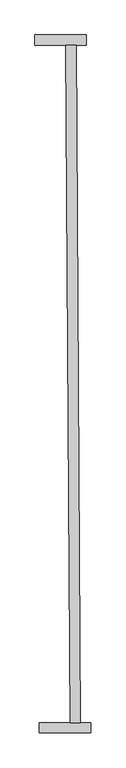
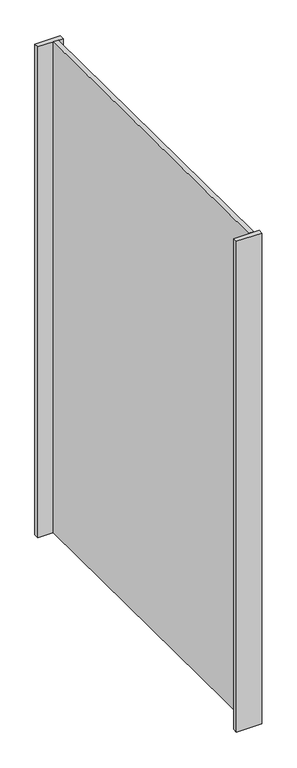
"""IFC4 building model written with IfcOpenShell, lengths in millimetres: proxy geometry, CAIXA JARDIM VERTICAL 4 : CAIXA JARDIM VERTICAL 1."""

import ifcopenshell
import ifcopenshell.guid

model = None  # the IFC model being written
_history = None  # IfcOwnerHistory: only IFC2X3 demands one
_inside = {}  # id of a spatial element -> (the spatial element, [elements in it])
_under = {}  # id of a project, library or spatial element -> (it, [spatial elements below it])
_declared = {}  # id of a project -> (the project, [libraries it declares])
_typed = {}  # id of a type object -> (the type object, [elements of that type])
_made_of = {}  # id of a material, layer set ... -> (it, [elements and type objects made of it])


def new_model(schema):
    """Start an empty IFC model of exactly this schema.

    Asked for "IFC4X3", IfcOpenShell would pick the latest addendum, in which some entities
    have other attributes; the version numbers below select the first issue.
    IFC2X3 requires an IfcOwnerHistory on every rooted entity: one is made here for all.
    """
    global model, _history
    if schema == "IFC4X3":
        model = ifcopenshell.file(schema_version=(4, 3, 0, 0))
    else:
        model = ifcopenshell.file(schema=schema)
    _inside.clear()
    _under.clear()
    _declared.clear()
    _typed.clear()
    _made_of.clear()
    _history = None
    if model.schema == "IFC2X3":
        org = make("IfcOrganization", Name="unknown")
        user = make(
            "IfcPersonAndOrganization",
            ThePerson=make("IfcPerson", FamilyName="unknown"),
            TheOrganization=org,
        )
        app = make(
            "IfcApplication",
            ApplicationDeveloper=org,
            Version="unknown",
            ApplicationFullName="unknown",
            ApplicationIdentifier="unknown",
        )
        _history = make(
            "IfcOwnerHistory",
            OwningUser=user,
            OwningApplication=app,
            ChangeAction="ADDED",
            CreationDate=0,
        )
    return model


def make(cls, **values):
    """One entity of the class cls with the attributes given. An attribute that is None is left unset."""
    return model.create_entity(
        cls, **{name: value for name, value in values.items() if value is not None}
    )


def rooted(cls, **values):
    """An entity with a GlobalId (a new one), such as an element, a storey or a relation."""
    return make(cls, GlobalId=ifcopenshell.guid.new(), OwnerHistory=_history, **values)


def si_unit(unit_type, name, prefix=None):
    """IfcSIUnit, for example si_unit("LENGTHUNIT", "METRE", prefix="MILLI")."""
    return make("IfcSIUnit", UnitType=unit_type, Prefix=prefix, Name=name)


def assignment(units):
    """IfcUnitAssignment: the units of a project."""
    return None if units is None else make("IfcUnitAssignment", Units=units)


def point(xyz):
    """IfcCartesianPoint."""
    return None if xyz is None else make("IfcCartesianPoint", Coordinates=xyz)


def direction(xyz):
    """IfcDirection."""
    return None if xyz is None else make("IfcDirection", DirectionRatios=xyz)


def frame(location, z_axis=None, x_axis=None):
    """IfcAxis2Placement3D, a coordinate frame: its origin and axes. An axis left out is left unset."""
    return make(
        "IfcAxis2Placement3D",
        Location=point(location),
        Axis=direction(z_axis),
        RefDirection=direction(x_axis),
    )


def origin():
    """The frame at (0, 0, 0) with its axes left unset."""
    return frame((0.0, 0.0, 0.0))


def origin_with_axes():
    """The frame at (0, 0, 0) with the z axis (0, 0, 1) and the x axis (1, 0, 0) written out."""
    return frame((0.0, 0.0, 0.0), z_axis=(0.0, 0.0, 1.0), x_axis=(1.0, 0.0, 0.0))


def place(relative_to, where):
    """IfcLocalPlacement: puts the frame where relative to a parent placement (None: the world)."""
    return make(
        "IfcLocalPlacement", PlacementRelTo=relative_to, RelativePlacement=where
    )


def context(
    kind, dimensions, precision=None, world=None, true_north=None, identifier=None
):
    """IfcGeometricRepresentationContext, for example the 3D "Model" context."""
    return make(
        "IfcGeometricRepresentationContext",
        ContextIdentifier=identifier,
        ContextType=kind,
        CoordinateSpaceDimension=dimensions,
        Precision=precision,
        WorldCoordinateSystem=world,
        TrueNorth=true_north,
    )


def project(units=None, contexts=None):
    """IfcProject with its units and contexts."""
    return rooted(
        "IfcProject",
        Name="project",
        RepresentationContexts=contexts,
        UnitsInContext=assignment(units),
    )


def spatial(cls, under=None, at=None, **own):
    """A site, building, storey or space (cls), placed at a placement, below another one or the project."""
    s = rooted(cls, ObjectPlacement=at, **own)
    if under is not None:
        _under.setdefault(under.id(), (under, []))[1].append(s)
    return s


def polyline(points):
    """IfcPolyline through the points."""
    return make("IfcPolyline", Points=[point(p) for p in points])


def outline(outer, holes=None, kind="AREA"):
    """IfcArbitraryClosedProfileDef: a profile drawn as a closed curve; with holes, ...WithVoids."""
    if holes is None:
        return make("IfcArbitraryClosedProfileDef", ProfileType=kind, OuterCurve=outer)
    return make(
        "IfcArbitraryProfileDefWithVoids",
        ProfileType=kind,
        OuterCurve=outer,
        InnerCurves=holes,
    )


def extrude(swept, where, along, depth):
    """IfcExtrudedAreaSolid: the profile swept, set in the frame where, extruded along a direction by depth."""
    return make(
        "IfcExtrudedAreaSolid",
        SweptArea=swept,
        Position=where,
        ExtrudedDirection=direction(along),
        Depth=depth,
    )


def shape(context_of_items, identifier, shape_type, items):
    """IfcShapeRepresentation: the items that make up one representation, for example the "Body"."""
    return make(
        "IfcShapeRepresentation",
        ContextOfItems=context_of_items,
        RepresentationIdentifier=identifier,
        RepresentationType=shape_type,
        Items=items,
    )


def source(mapping_origin, context_of_items, identifier, shape_type, items):
    """IfcRepresentationMap: a shape defined once, which mapped items show again and again."""
    return make(
        "IfcRepresentationMap",
        MappingOrigin=mapping_origin,
        MappedRepresentation=shape(context_of_items, identifier, shape_type, items),
    )


def transform(
    local_origin,
    x_axis=None,
    y_axis=None,
    z_axis=None,
    scale=None,
    scale2=None,
    scale3=None,
    uniform=True,
):
    """IfcCartesianTransformationOperator3D, or its non-uniform kind. x_axis, y_axis, z_axis: its Axis1, 2, 3."""
    if uniform:
        return make(
            "IfcCartesianTransformationOperator3D",
            Axis1=direction(x_axis),
            Axis2=direction(y_axis),
            LocalOrigin=point(local_origin),
            Scale=scale,
            Axis3=direction(z_axis),
        )
    return make(
        "IfcCartesianTransformationOperator3DnonUniform",
        Axis1=direction(x_axis),
        Axis2=direction(y_axis),
        LocalOrigin=point(local_origin),
        Scale=scale,
        Axis3=direction(z_axis),
        Scale2=scale2,
        Scale3=scale3,
    )


def mapped(mapping_source, mapping_target):
    """IfcMappedItem: shows the shape of a source again, moved by a transform."""
    return make(
        "IfcMappedItem", MappingSource=mapping_source, MappingTarget=mapping_target
    )


def made_of(thing, what):
    """Note that an element or type object is made of a material, layer set ...; save() writes the relation."""
    if what is not None:
        _made_of.setdefault(what.id(), (what, []))[1].append(thing)
    return thing


def element(
    cls,
    number,
    at=None,
    inside=None,
    cuts=None,
    type_object=None,
    material=None,
    context=None,
    identifier="Body",
    shape_type=None,
    held_by="IfcProductDefinitionShape",
    body=None,
    shapes=None,
    **own,
):
    """One element of the class cls, such as IfcWall. Its Tag is "e" and its number.

    at: its placement. inside: the storey or other place that contains it. cuts: it is an
    opening in that element (IfcRelVoidsElement). A single representation is given by context,
    identifier, shape_type and body (its items); several are given by shapes. held_by: the class
    of the entity that holds the representations. save() writes the other relations.
    """
    e = rooted(cls, Tag="e%d" % number, ObjectPlacement=at, **own)
    if body is not None:
        shapes = [shape(context, identifier, shape_type, body)]
    if shapes is not None:
        e.Representation = make(held_by, Representations=shapes)
    if inside is not None:
        _inside.setdefault(inside.id(), (inside, []))[1].append(e)
    if cuts is not None:
        rooted(
            "IfcRelVoidsElement", RelatingBuildingElement=cuts, RelatedOpeningElement=e
        )
    if type_object is not None:
        _typed.setdefault(type_object.id(), (type_object, []))[1].append(e)
    return made_of(e, material)


def aggregate(whole, parts):
    """IfcRelAggregates: a whole, such as a stair, and the parts it consists of."""
    return rooted("IfcRelAggregates", RelatingObject=whole, RelatedObjects=parts)


def save(model, path):
    """Write the relations noted so far, then the file.

    IfcRelAggregates (storeys below a building ...), IfcRelContainedInSpatialStructure (elements
    in a storey), IfcRelDefinesByType, IfcRelAssociatesMaterial and IfcRelDeclares: one each for
    every whole, place, type object, material and project.
    """
    for whole, parts in _under.values():
        aggregate(whole, parts)
    for where, things in _inside.values():
        rooted(
            "IfcRelContainedInSpatialStructure",
            RelatedElements=things,
            RelatingStructure=where,
        )
    for kind, things in _typed.values():
        rooted("IfcRelDefinesByType", RelatedObjects=things, RelatingType=kind)
    for what, things in _made_of.values():
        rooted("IfcRelAssociatesMaterial", RelatedObjects=things, RelatingMaterial=what)
    for by, libraries in _declared.values():
        rooted("IfcRelDeclares", RelatingContext=by, RelatedDefinitions=libraries)
    model.write(path)


def generic_models_0f655083(model_context):
    return source(origin(), model_context, "Body", "SweptSolid", [
        extrude(outline(polyline([(-4336.8377381, -7054.7582162), (-4366.8377381, -7054.7582162), (-4379.358529, -5084.7582162), (-4349.358529, -5084.7582162), (-4336.8377381, -7054.7582162)])), origin_with_axes(), (0.0, 0.0, 1.0), 3050.0),
        extrude(outline(polyline([(-4306.8377381, -7054.7582162), (-4306.8377381, -7084.7582162), (-4456.8377381, -7084.7582162), (-4456.8377381, -7054.7582162), (-4306.8377381, -7054.7582162)])), origin_with_axes(), (0.0, 0.0, 1.0), 3050.0),
        extrude(outline(polyline([(-4319.358529, -5054.7582162), (-4319.358529, -5084.7582162), (-4469.358529, -5084.7582162), (-4469.358529, -5054.7582162), (-4319.358529, -5054.7582162)])), origin_with_axes(), (0.0, 0.0, 1.0), 3050.0),
    ])


if __name__ == "__main__":
    model = new_model("IFC4")
    model_context = context("Model", 3, world=origin())
    ifc_project = project(units=[si_unit("LENGTHUNIT", "METRE", prefix="MILLI")], contexts=[model_context])
    site = spatial("IfcSite", under=ifc_project)
    building = spatial("IfcBuilding", under=site)
    placement = place(None, origin())
    generic_models_shape = generic_models_0f655083(model_context)
    element("IfcBuildingElementProxy", 1, Name="CAIXA JARDIM VERTICAL 4 : CAIXA JARDIM VERTICAL 1", ObjectType="CAIXA JARDIM VERTICAL 4 : CAIXA JARDIM VERTICAL 1", at=placement, inside=building, context=model_context, shape_type="MappedRepresentation", body=[
        mapped(generic_models_shape, transform((0.0, 0.0, 0.0), x_axis=(1.0, 0.0, 0.0), y_axis=(0.0, 1.0, 0.0), z_axis=(0.0, 0.0, 1.0))),
    ])
    save(model, "model.ifc")
